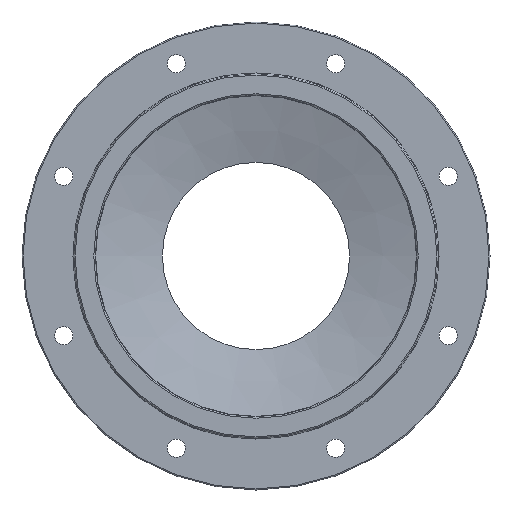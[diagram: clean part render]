
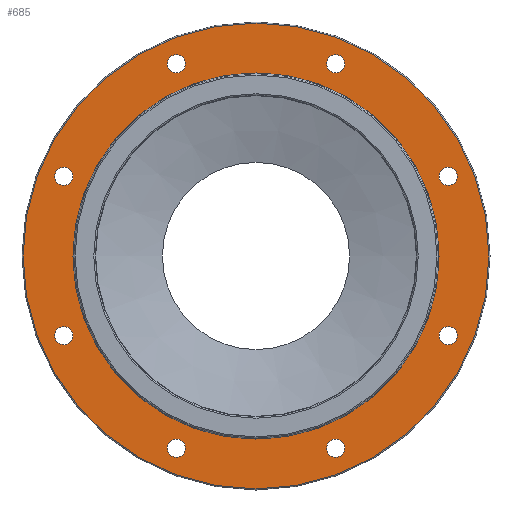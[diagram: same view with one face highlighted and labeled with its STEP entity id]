
A CAD part, front view. The second image highlights one B-rep face of the part: STEP entity #685.
In plain terms, the highlighted planar face has unit normal (0, -1, 0).
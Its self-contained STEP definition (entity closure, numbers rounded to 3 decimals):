
#105=CARTESIAN_POINT('',(-67.787,-43.5,184.776));
#106=VERTEX_POINT('',#105);
#107=CARTESIAN_POINT('',(-76.537,-43.5,184.776));
#108=DIRECTION('',(0.0,1.0,0.0));
#109=DIRECTION('',(1.0,0.0,0.0));
#110=AXIS2_PLACEMENT_3D('',#107,#108,#109);
#111=CIRCLE('',#110,8.75);
#112=EDGE_CURVE('',#106,#106,#111,.T.);
#154=CARTESIAN_POINT('',(85.287,-43.5,184.776));
#155=VERTEX_POINT('',#154);
#156=CARTESIAN_POINT('',(76.537,-43.5,184.776));
#157=DIRECTION('',(0.0,1.0,0.0));
#158=DIRECTION('',(1.0,0.0,0.0));
#159=AXIS2_PLACEMENT_3D('',#156,#157,#158);
#160=CIRCLE('',#159,8.75);
#161=EDGE_CURVE('',#155,#155,#160,.T.);
#203=CARTESIAN_POINT('',(85.287,-43.5,-184.776));
#204=VERTEX_POINT('',#203);
#205=CARTESIAN_POINT('',(76.537,-43.5,-184.776));
#206=DIRECTION('',(0.0,1.0,0.0));
#207=DIRECTION('',(1.0,0.0,0.0));
#208=AXIS2_PLACEMENT_3D('',#205,#206,#207);
#209=CIRCLE('',#208,8.75);
#210=EDGE_CURVE('',#204,#204,#209,.T.);
#252=CARTESIAN_POINT('',(-67.787,-43.5,-184.776));
#253=VERTEX_POINT('',#252);
#254=CARTESIAN_POINT('',(-76.537,-43.5,-184.776));
#255=DIRECTION('',(0.0,1.0,0.0));
#256=DIRECTION('',(1.0,0.0,0.0));
#257=AXIS2_PLACEMENT_3D('',#254,#255,#256);
#258=CIRCLE('',#257,8.75);
#259=EDGE_CURVE('',#253,#253,#258,.T.);
#301=CARTESIAN_POINT('',(-176.026,-43.5,76.537));
#302=VERTEX_POINT('',#301);
#303=CARTESIAN_POINT('',(-184.776,-43.5,76.537));
#304=DIRECTION('',(0.0,1.0,0.0));
#305=DIRECTION('',(1.0,0.0,0.0));
#306=AXIS2_PLACEMENT_3D('',#303,#304,#305);
#307=CIRCLE('',#306,8.75);
#308=EDGE_CURVE('',#302,#302,#307,.T.);
#350=CARTESIAN_POINT('',(-176.026,-43.5,-76.537));
#351=VERTEX_POINT('',#350);
#352=CARTESIAN_POINT('',(-184.776,-43.5,-76.537));
#353=DIRECTION('',(0.0,1.0,0.0));
#354=DIRECTION('',(1.0,0.0,0.0));
#355=AXIS2_PLACEMENT_3D('',#352,#353,#354);
#356=CIRCLE('',#355,8.75);
#357=EDGE_CURVE('',#351,#351,#356,.T.);
#399=CARTESIAN_POINT('',(193.526,-43.5,-76.537));
#400=VERTEX_POINT('',#399);
#401=CARTESIAN_POINT('',(184.776,-43.5,-76.537));
#402=DIRECTION('',(0.0,1.0,0.0));
#403=DIRECTION('',(1.0,0.0,0.0));
#404=AXIS2_PLACEMENT_3D('',#401,#402,#403);
#405=CIRCLE('',#404,8.75);
#406=EDGE_CURVE('',#400,#400,#405,.T.);
#448=CARTESIAN_POINT('',(193.526,-43.5,76.537));
#449=VERTEX_POINT('',#448);
#450=CARTESIAN_POINT('',(184.776,-43.5,76.537));
#451=DIRECTION('',(0.0,1.0,0.0));
#452=DIRECTION('',(1.0,0.0,0.0));
#453=AXIS2_PLACEMENT_3D('',#450,#451,#452);
#454=CIRCLE('',#453,8.75);
#455=EDGE_CURVE('',#449,#449,#454,.T.);
#627=CARTESIAN_POINT('',(-224.0,-43.5,0.0));
#628=VERTEX_POINT('',#627);
#629=CARTESIAN_POINT('',(0.0,-43.5,0.0));
#630=DIRECTION('',(0.0,1.0,0.0));
#631=DIRECTION('',(1.0,0.0,0.0));
#632=AXIS2_PLACEMENT_3D('',#629,#630,#631);
#633=CIRCLE('',#632,224.0);
#634=EDGE_CURVE('',#628,#628,#633,.T.);
#642=CARTESIAN_POINT('',(-200.0,-43.5,0.));
#643=DIRECTION('',(0.0,-1.0,0.0));
#644=DIRECTION('',(0.0,0.0,-1.0));
#645=AXIS2_PLACEMENT_3D('',#642,#643,#644);
#646=PLANE('',#645);
#647=ORIENTED_EDGE('',*,*,#634,.F.);
#648=EDGE_LOOP('',(#647));
#649=FACE_OUTER_BOUND('',#648,.T.);
#650=ORIENTED_EDGE('',*,*,#112,.T.);
#651=EDGE_LOOP('',(#650));
#652=FACE_BOUND('',#651,.T.);
#653=ORIENTED_EDGE('',*,*,#161,.T.);
#654=EDGE_LOOP('',(#653));
#655=FACE_BOUND('',#654,.T.);
#656=ORIENTED_EDGE('',*,*,#210,.T.);
#657=EDGE_LOOP('',(#656));
#658=FACE_BOUND('',#657,.T.);
#659=ORIENTED_EDGE('',*,*,#259,.T.);
#660=EDGE_LOOP('',(#659));
#661=FACE_BOUND('',#660,.T.);
#662=ORIENTED_EDGE('',*,*,#308,.T.);
#663=EDGE_LOOP('',(#662));
#664=FACE_BOUND('',#663,.T.);
#665=ORIENTED_EDGE('',*,*,#357,.T.);
#666=EDGE_LOOP('',(#665));
#667=FACE_BOUND('',#666,.T.);
#668=ORIENTED_EDGE('',*,*,#406,.T.);
#669=EDGE_LOOP('',(#668));
#670=FACE_BOUND('',#669,.T.);
#671=ORIENTED_EDGE('',*,*,#455,.T.);
#672=EDGE_LOOP('',(#671));
#673=FACE_BOUND('',#672,.T.);
#674=CARTESIAN_POINT('',(-176.0,-43.5,0.));
#675=VERTEX_POINT('',#674);
#676=CARTESIAN_POINT('',(0.0,-43.5,0.0));
#677=DIRECTION('',(0.0,-1.0,0.0));
#678=DIRECTION('',(1.0,0.0,0.0));
#679=AXIS2_PLACEMENT_3D('',#676,#677,#678);
#680=CIRCLE('',#679,176.0);
#681=EDGE_CURVE('',#675,#675,#680,.T.);
#682=ORIENTED_EDGE('',*,*,#681,.F.);
#683=EDGE_LOOP('',(#682));
#684=FACE_BOUND('',#683,.T.);
#685=ADVANCED_FACE('',(#649,#652,#655,#658,#661,#664,#667,#670,#673,#684),#646,.T.);
